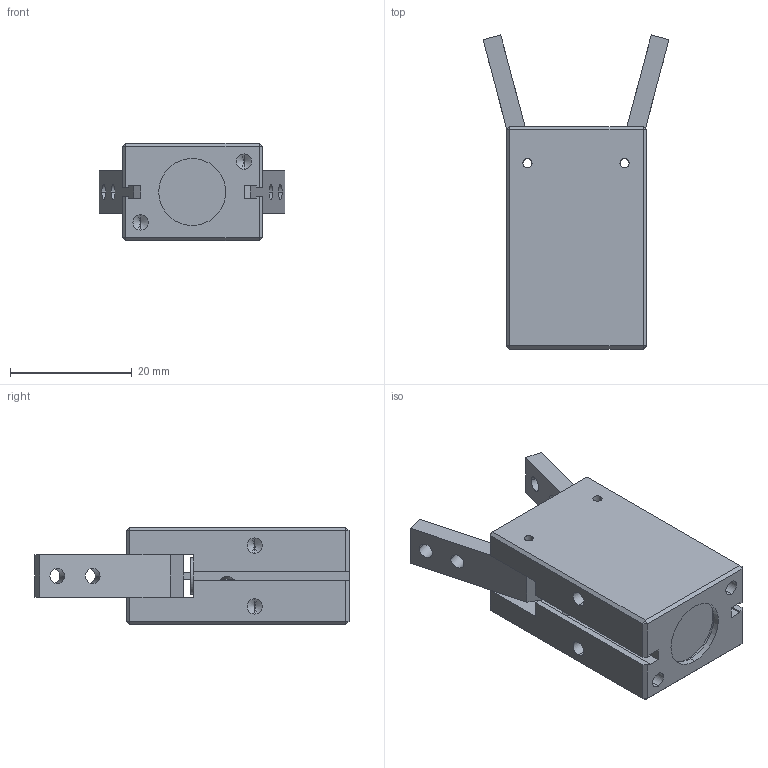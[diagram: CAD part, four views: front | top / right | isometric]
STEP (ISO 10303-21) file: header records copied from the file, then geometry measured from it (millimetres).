
FILE_DESCRIPTION (( 'STEP AP203' ), '1' );
FILE_NAME ('GDS.10-OPEN.STEP', '2011-10-20T11:45:57', ( 'Christophe Gaillard' ), ( 'SGA' ), 'SwSTEP 2.0', 'SolidWorks 2010', '' );
FILE_SCHEMA (( 'CONFIG_CONTROL_DESIGN' ));
Length unit declared in the file: millimetre
Products named in the file (5): Pièce1; Pièce7; Pièce2; GDS.10-OPEN; GDS10(corps)
Assembly tree (6 placements, depth 2):
  GDS.10-OPEN
    Pièce7  x2
    Pièce1
    Pièce2  x2
    GDS10(corps)
Bounding box: 30.53 x 51.57 x 16 mm (x, y, z)
Volume: 12146 mm3; surface area: 7144.9 mm2
Topology: 6 solids, 6 shells, 574 faces, 1528 edges, 999 vertices
Faces by surface type: plane 301, bspline 212, cylinder 46, cone 15
Entity records: 31966 total; most frequent: CARTESIAN_POINT 19117, ORIENTED_EDGE 2912, DIRECTION 1801, EDGE_CURVE 1456, VERTEX_POINT 959, VECTOR 943, LINE 943, EDGE_LOOP 613
